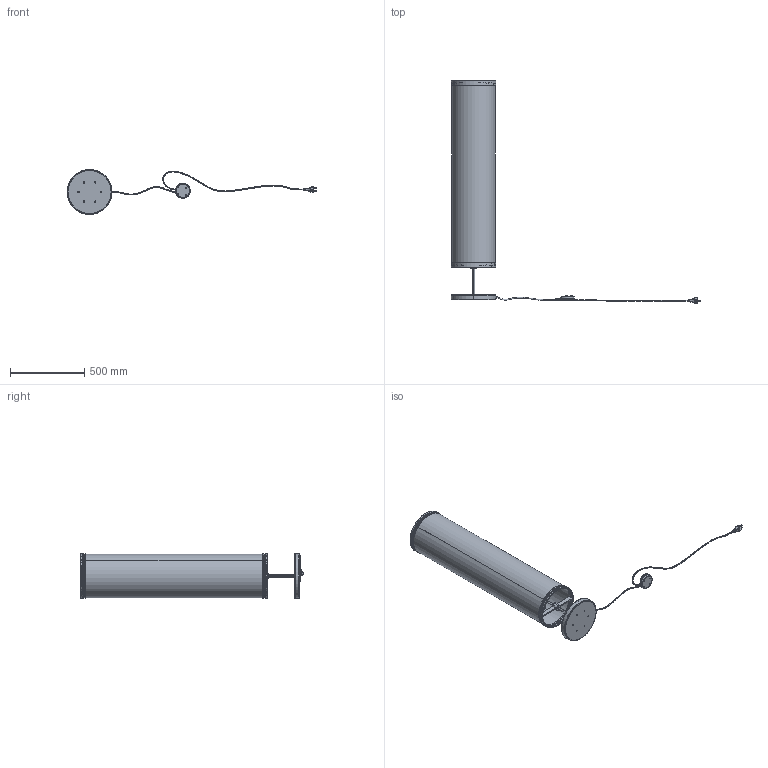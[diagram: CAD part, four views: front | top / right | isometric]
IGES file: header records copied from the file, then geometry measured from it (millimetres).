
Start section: SolidWorks IGES file using analytic representation for surfaces
Global section: file name: H:\Drive condivisi\Ufficio Tecnico\Graphics\Files 3D for Sito Web\Isol\X15-F001 Isol Floor_27.IGS; native system: SolidWorks 2023; preprocessor: SolidWorks 2023; author: Tecnico; date: 230627.141836; units: millimetre
Bounding box: 1684.54 x 1504.11 x 302 mm (x, y, z)
Surface area: 3597370.9 mm2 (no closed solid volume)
Topology: 0 solids, 0 shells, 1644 faces, 21668 edges, 21592 vertices
Faces by surface type: revolution 825, bspline 819
